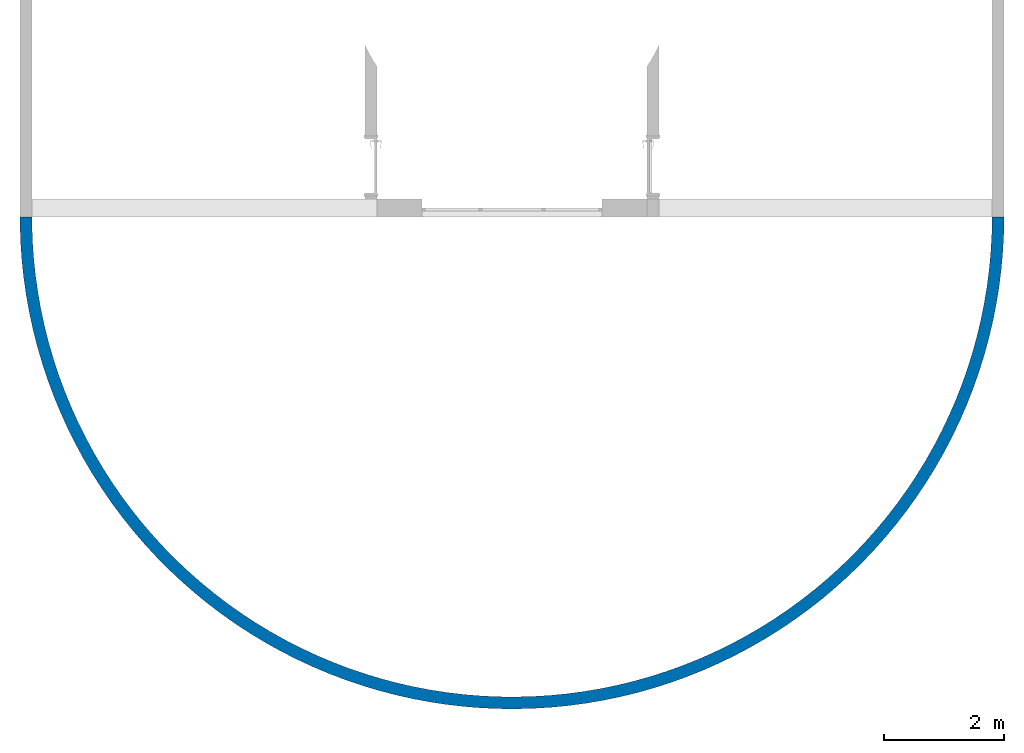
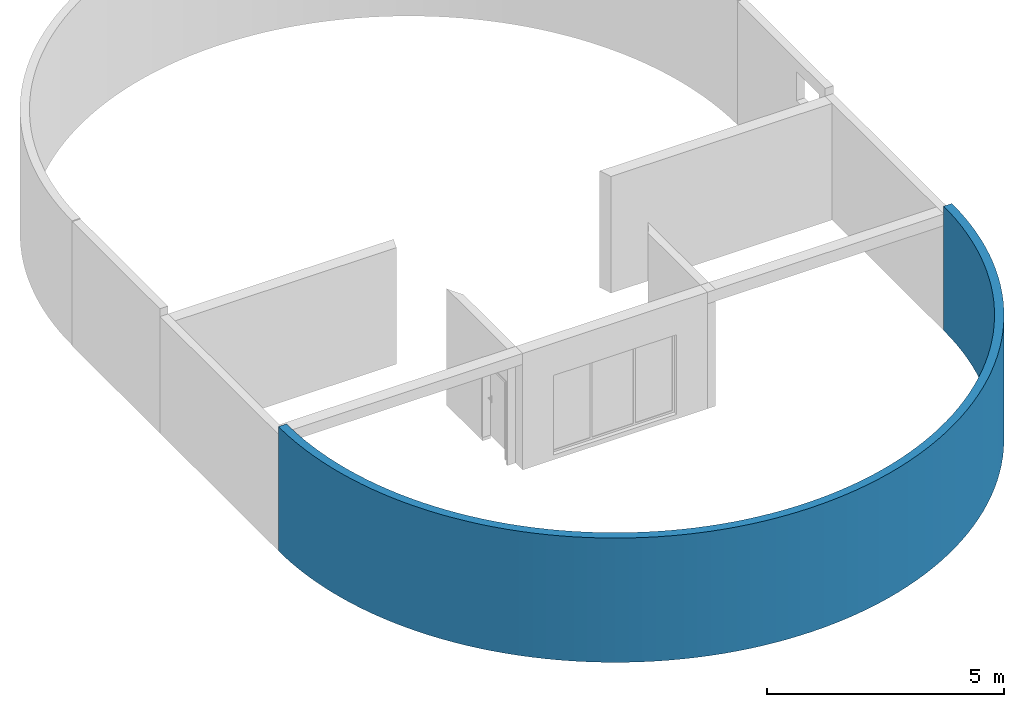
# One storey, part 3 of 5: 1 wall.
"""IFC4 building model written with IfcOpenShell, lengths in millimetres."""

from ifc_helpers import new_model, entity, si_unit, converted_unit, derived_unit, direction, frame, origin_with_axes, place, context, subcontext, project, spatial, polygons, material, constituent, constituent_set, type_object, element, save


model = new_model("IFC4")

# Units and contexts
model_context = context("Model", 3, precision=0.01, world=origin_with_axes(), true_north=direction((0.0, 1.0)))
body_context = subcontext(model_context, "Body", "Model", "MODEL_VIEW")
ifc_project = project(units=[si_unit("LENGTHUNIT", "METRE", prefix="MILLI"), si_unit("AREAUNIT", "SQUARE_METRE"), si_unit("VOLUMEUNIT", "CUBIC_METRE"), converted_unit("PLANEANGLEUNIT", "DEGREE", entity("IfcPlaneAngleMeasure", 0.0174532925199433), si_unit("PLANEANGLEUNIT", "RADIAN"), dimensions=[0, 0, 0, 0, 0, 0, 0]), converted_unit("TIMEUNIT", "Year", entity("IfcTimeMeasure", 31557600.0), si_unit("TIMEUNIT", "SECOND"), dimensions=[0, 0, 1, 0, 0, 0, 0]), si_unit("MASSUNIT", "GRAM", prefix="KILO"), si_unit("THERMODYNAMICTEMPERATUREUNIT", "DEGREE_CELSIUS"), si_unit("LUMINOUSINTENSITYUNIT", "LUMEN"), si_unit("ENERGYUNIT", "JOULE", prefix="MEGA"), derived_unit("THERMALCONDUCTANCEUNIT", [(si_unit("POWERUNIT", "WATT"), 1), (si_unit("LENGTHUNIT", "METRE"), -1), (si_unit("THERMODYNAMICTEMPERATUREUNIT", "KELVIN"), -1)]), derived_unit("SPECIFICHEATCAPACITYUNIT", [(si_unit("ENERGYUNIT", "JOULE"), 1), (si_unit("MASSUNIT", "GRAM", prefix="KILO"), -1), (si_unit("THERMODYNAMICTEMPERATUREUNIT", "KELVIN"), -1)]), derived_unit("MASSDENSITYUNIT", [(si_unit("MASSUNIT", "GRAM", prefix="KILO"), 1), (si_unit("VOLUMEUNIT", "CUBIC_METRE"), -1)])], contexts=[model_context])

# Site, building, storey
site_placement = place(None, origin_with_axes())
site = spatial("IfcSite", under=ifc_project, at=site_placement, Name="Exteriér", CompositionType="ELEMENT")
building_placement = place(site_placement, origin_with_axes())
building = spatial("IfcBuilding", under=site, at=building_placement, Name="Univerzitní lezecké centrum", CompositionType="ELEMENT")
storey_placement = place(building_placement, frame((0.0, 0.0, 3200.0), z_axis=(0.0, 0.0, 1.0), x_axis=(1.0, 0.0, 0.0)))
storey = spatial("IfcBuildingStorey", under=building, at=storey_placement, Name="2.NP", CompositionType="ELEMENT", Elevation=3200.0)

# Wall
ifc_material = material(Name="Beton vyztužený - vnější svislé kce")
ifc_constituent = constituent(ifc_material, Name="Beton vyztužený - vnější svislé kce")
ifc_constituent_set = constituent_set(constituents=[ifc_constituent], Name="!Vnější betonová stěna 200 mm")
wall_type = type_object("IfcWallType", Name="!Vnější betonová stěna 200 mm 200", PredefinedType="NOTDEFINED")
wall_placement = place(storey_placement, frame((-5550.148349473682, -300.1634079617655, -120.000000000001), z_axis=(0.0, 0.0, 1.0), x_axis=(2.042599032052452e-05, -0.9999999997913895, 0.0)))
element("IfcWall", 1, at=wall_placement, inside=storey, type_object=wall_type, material=ifc_constituent_set, Name="St01", PredefinedType="NOTDEFINED", context=body_context, shape_type="Tessellation", body=[
    polygons([(145.5579959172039, -200.0000000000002, 0.0), (145.5579959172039, -200.0000000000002, 3200.0), (0.0, -200.0000000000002, 3200.0), (0.0, -200.0000000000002, 0.0), (436.4905859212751, -189.6680701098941, 0.0), (436.4905859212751, -189.6680701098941, 3200.0), (142.0078008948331, 0.0, 3200.0), (0.0, 0.0, 3200.0), (0.0, 0.0, 0.0), (142.0078008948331, 0.0, 0.0), (726.8732015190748, -169.0172284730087, 0.0), (726.8732015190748, -169.0172284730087, 3200.0), (425.8444740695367, 10.07993160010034, 3200.0), (425.8444740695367, 10.07993160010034, 0.0), (1016.339963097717, -138.0734949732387, 0.0), (1016.339963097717, -138.0734949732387, 3200.0), (709.1445868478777, 30.22709417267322, 3200.0), (709.1445868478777, 30.22709417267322, 0.0), (1304.526145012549, -96.87585845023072, 0.0), (1304.526145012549, -96.87585845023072, 3200.0), (991.5511835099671, 60.41610246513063, 3200.0), (991.5511835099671, 60.41610246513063, 0.0), (1591.068635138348, -45.47622757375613, 0.0), (1591.068635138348, -45.47622757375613, 3200.0), (1272.708434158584, 100.6089185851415, 3200.0), (1272.708434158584, 100.6089185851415, 0.0), (1875.606392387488, 16.06063456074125, 0.0), (1875.606392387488, 16.06063456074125, 3200.0), (1552.262083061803, 150.7548999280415, 3200.0), (1552.262083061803, 150.7548999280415, 0.0), (2157.780901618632, 87.65719203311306, 0.0), (2157.780901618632, 87.65719203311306, 3200.0), (1829.859895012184, 210.7908629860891, 3200.0), (1829.859895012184, 210.7908629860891, 0.0), (2437.236625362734, 169.2232337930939, 0.0), (2437.236625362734, 169.2232337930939, 3200.0), (2105.152099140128, 280.6411629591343, 3200.0), (2105.152099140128, 280.6411629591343, 0.0), (2713.621451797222, 260.6559873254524, 0.0), (2713.621451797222, 260.6559873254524, 3200.0), (2377.79182962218, 360.2177890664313, 3200.0), (2377.79182962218, 360.2177890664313, 0.0), (2986.587138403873, 361.8402481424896, 0.0), (2986.587138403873, 361.8402481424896, 3200.0), (2647.435562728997, 449.4204754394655, 3200.0), (2647.435562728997, 449.4204754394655, 0.0), (3255.789750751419, 472.6485249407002, 0.0), (3255.789750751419, 472.6485249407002, 3200.0), (2913.743549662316, 548.1368274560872, 3200.0), (2913.743549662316, 548.1368274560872, 0.0), (3520.890095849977, 592.941200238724, 0.0), (3520.890095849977, 592.941200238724, 3200.0), (3176.380244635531, 656.2424633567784, 3200.0), (3176.380244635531, 656.2424633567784, 0.0), (3781.55414953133, 722.5667062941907, 0.0), (3781.55414953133, 722.5667062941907, 3200.0), (3435.014727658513, 773.6011709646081, 3200.0), (3435.014727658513, 773.6011709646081, 0.0), (4037.453477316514, 861.3617160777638, 0.0), (4037.453477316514, 861.3617160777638, 3200.0), (3689.321121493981, 900.0650793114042, 3200.0), (3689.321121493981, 900.0650793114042, 0.0), (4288.265648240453, 1009.151349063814, 0.0), (4288.265648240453, 1009.151349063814, 3200.0), (3938.979002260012, 1035.474844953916, 3200.0), (3938.979002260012, 1035.474844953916, 0.0), (4533.674641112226, 1165.749391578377, 0.0), (4533.674641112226, 1165.749391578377, 3200.0), (4183.673803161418, 1179.659852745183, 3200.0), (4183.673803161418, 1179.659852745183, 0.0), (4773.371242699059, 1330.958531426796, 0.0), (4773.371242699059, 1330.958531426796, 3200.0), (4423.097210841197, 1332.438430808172, 3200.0), (4423.097210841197, 1332.438430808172, 0.0), (5007.053437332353, 1504.570606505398, 0.0), (5007.053437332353, 1504.570606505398, 3200.0), (4656.94755385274, 1493.618079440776, 3200.0), (4656.94755385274, 1493.618079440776, 0.0), (5234.426787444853, 1686.366867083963, 0.0), (5234.426787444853, 1686.366867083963, 3200.0), (4884.930182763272, 1662.995713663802, 3200.0), (4884.930182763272, 1662.995713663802, 0.0), (5455.204804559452, 1876.118251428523, 0.0), (5455.204804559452, 1876.118251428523, 3200.0), (5106.757841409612, 1840.357919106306, 3200.0), (5106.757841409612, 1840.357919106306, 0.0), (5669.10931026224, 2073.585674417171, 0.0), (5669.10931026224, 2073.585674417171, 3200.0), (5322.151028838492, 2025.481220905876, 3200.0), (5322.151028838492, 2025.481220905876, 0.0), (5875.870786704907, 2278.520328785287, 0.0), (5875.870786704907, 2278.520328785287, 3200.0), (5530.838351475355, 2218.132365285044, 3200.0), (5530.838351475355, 2218.132365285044, 0.0), (6075.228716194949, 2490.663998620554, 0.0), (6075.228716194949, 2490.663998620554, 3200.0), (5732.55686507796, 2418.06861344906, 3200.0), (5732.55686507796, 2418.06861344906, 0.0), (6266.931909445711, 2709.749384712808, 0.0), (6266.931909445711, 2709.749384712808, 3200.0), (5927.052406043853, 2625.038047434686, 3200.0), (5927.052406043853, 2625.038047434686, 0.0), (6450.73882207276, 2935.50044134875, 0.0), (6450.73882207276, 2935.50044134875, 3200.0), (6114.079911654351, 2838.77988752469, 3200.0), (6114.079911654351, 2838.77988752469, 0.0), (6626.417858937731, 3167.632724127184, 0.0), (6626.417858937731, 3167.632724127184, 3200.0), (6293.403728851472, 3059.024820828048, 3200.0), (6293.403728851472, 3059.024820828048, 0.0), (6793.747665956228, 3405.853748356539, 0.0), (6793.747665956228, 3405.853748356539, 3200.0), (6464.797911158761, 3285.495340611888, 3200.0), (6464.797911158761, 3285.495340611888, 0.0), (6952.517409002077, 3649.863357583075, 0.0), (6952.517409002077, 3649.863357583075, 3200.0), (6628.04650337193, 3517.906095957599, 3200.0), (6628.04650337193, 3517.906095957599, 0.0), (7102.527039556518, 3899.354101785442, 0.0), (7102.527039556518, 3899.354101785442, 3200.0), (6782.943813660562, 3755.964251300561, 3200.0), (6782.943813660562, 3755.964251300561, 0.0), (7243.587546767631, 4154.01162475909, 0.0), (7243.587546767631, 4154.01162475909, 3200.0), (6929.294672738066, 3999.36985540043, 3200.0), (6929.294672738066, 3999.36985540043, 0.0), (7375.521195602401, 4413.51506020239, 0.0), (7375.521195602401, 4413.51506020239, 3200.0), (7066.9146797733, 4247.81621927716, 3200.0), (7066.9146797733, 4247.81621927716, 0.0), (7498.161750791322, 4677.537436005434, 0.0), (7498.161750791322, 4677.537436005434, 3200.0), (7195.630434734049, 4500.990302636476, 3200.0), (7195.630434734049, 4500.990302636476, 0.0), (7611.354686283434, 4945.7460862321, 0.0), (7611.354686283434, 4945.7460862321, 3200.0), (7315.279756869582, 4758.573108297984, 3200.0), (7315.279756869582, 4758.573108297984, 0.0), (7714.957379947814, 5217.80307027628, 0.0), (7714.957379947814, 5217.80307027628, 3200.0), (7425.711889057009, 5020.240084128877, 3200.0), (7425.711889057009, 5020.240084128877, 0.0), (7808.839293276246, 5493.365598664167, 0.0), (7808.839293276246, 5493.365598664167, 3200.0), (7526.787687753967, 5285.661531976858, 3200.0), (7526.787687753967, 5285.661531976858, 0.0), (7892.882135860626, 5772.086464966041, 0.0), (7892.882135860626, 5772.086464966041, 3200.0), (7618.379798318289, 5554.503023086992, 3200.0), (7618.379798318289, 5554.503023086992, 0.0), (7966.980014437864, 6053.614483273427, 0.0), (7966.980014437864, 6053.614483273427, 3200.0), (7700.372815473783, 5826.425819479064, 3200.0), (7700.372815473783, 5826.425819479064, 0.0), (8031.039566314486, 6337.594930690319, 0.0), (8031.039566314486, 6337.594930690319, 3200.0), (7772.663428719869, 6101.087300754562, 3200.0), (7772.663428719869, 6101.087300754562, 0.0), (8084.98007700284, 6623.669994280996, 0.0), (8084.98007700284, 6623.669994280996, 3200.0), (7835.160552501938, 6378.141395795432, 3200.0), (7835.160552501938, 6378.141395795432, 0.0), (8128.733581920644, 6911.479221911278, 0.0), (8128.733581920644, 6911.479221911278, 3200.0), (7887.78544097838, 6657.239018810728, 3200.0), (7887.78544097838, 6657.239018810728, 0.0), (8162.244952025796, 7200.659976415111, 0.0), (8162.244952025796, 7200.659976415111, 3200.0), (7930.471787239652, 6938.028509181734, 3200.0), (7930.471787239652, 6938.028509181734, 0.0), (8185.471963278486, 7490.847892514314, 0.0), (8185.471963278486, 7490.847892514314, 3200.0), (7963.165806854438, 7220.156074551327, 3200.0), (7963.165806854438, 7220.156074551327, 0.0), (8198.385349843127, 7781.677335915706, 0.0), (8198.385349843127, 7781.677335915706, 3200.0), (7985.826305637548, 7503.26623659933, 3200.0), (7985.826305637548, 7503.26623659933, 0.0), (8200.968840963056, 8072.781864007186, 0.0), (8200.968840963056, 8072.781864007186, 3200.0), (7998.424731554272, 7787.002278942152, 3200.0), (7998.424731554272, 7787.002278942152, 0.0), (8193.219181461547, 8363.794687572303, 0.0), (8193.219181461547, 8363.794687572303, 3200.0), (8000.945210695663, 8071.006696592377, 3200.0), (8000.945210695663, 8071.006696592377, 0.0), (8175.146135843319, 8654.34913294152, 0.0), (8175.146135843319, 8654.34913294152, 3200.0), (7993.384567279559, 8354.921646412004, 3200.0), (7993.384567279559, 8354.921646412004, 0.0), (8146.772475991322, 8944.079103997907, 0.0), (8146.772475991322, 8944.079103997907, 3200.0), (7975.752327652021, 8638.389397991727, 3200.0), (7975.752327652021, 8638.389397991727, 0.0), (8108.133952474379, 9232.61954345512, 0.0), (8108.133952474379, 9232.61954345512, 3200.0), (7948.070708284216, 8921.052784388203, 3200.0), (7948.070708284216, 8921.052784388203, 0.0), (8059.279249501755, 9519.60689282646, 0.0), (8059.279249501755, 9519.60689282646, 3200.0), (7910.374587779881, 9202.555652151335, 3200.0), (7910.374587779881, 9202.555652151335, 0.0), (8000.269923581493, 9804.679550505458, 0.0), (8000.269923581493, 9804.679550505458, 3200.0), (7862.711462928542, 9482.543310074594, 3200.0), (7862.711462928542, 9482.543310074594, 0.0), (7931.18032595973, 10087.47832738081, 0.0), (7931.18032595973, 10087.47832738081, 3200.0), (7805.141388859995, 9760.662976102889, 3200.0), (7805.141388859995, 9760.662976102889, 0.0), (7852.097508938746, 10367.64689941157, 0.0), (7852.097508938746, 10367.64689941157, 3200.0), (7737.736903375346, 10036.56422183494, 3200.0), (7737.736903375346, 10036.56422183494, 0.0), (7763.121116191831, 10644.83225659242, 0.0), (7763.121116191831, 10644.83225659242, 3200.0), (7660.582935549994, 10309.89941406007, 3200.0), (7660.582935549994, 10309.89941406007, 0.0), (7664.363257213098, 10918.68514774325, 0.0), (7664.363257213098, 10918.68514774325, 3200.0), (7573.776698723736, 10580.3241527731, 3200.0), (7573.776698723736, 10580.3241527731, 0.0), (7555.948366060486, 11188.86052056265, 0.0), (7555.948366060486, 11188.86052056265, 3200.0), (7477.427568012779, 10847.49770511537, 3200.0), (7477.427568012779, 10847.49770511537, 0.0), (7438.013044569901, 11455.01795639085, 0.0), (7438.013044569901, 11455.01795639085, 3200.0), (7371.656942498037, 11111.08343469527, 3200.0), (7371.656942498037, 11111.08343469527, 0.0), (7310.705890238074, 11716.82209913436, 0.0), (7310.705890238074, 11716.82209913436, 3200.0), (7256.598092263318, 11370.74922574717, 3200.0), (7256.598092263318, 11370.74922574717, 0.0), (7174.187308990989, 11973.94307781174, 0.0), (7174.187308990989, 11973.94307781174, 3200.0), (7132.39599047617, 11626.1679015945, 3200.0), (7132.39599047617, 11626.1679015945, 0.0), (7028.629313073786, 12226.05692218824, 0.0), (7028.629313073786, 12226.05692218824, 3200.0), (6999.207130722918, 11877.0176368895, 3200.0), (6999.207130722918, 11877.0176368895, 0.0), (6874.215304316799, 12472.84597097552, 0.0), (6874.215304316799, 12472.84597097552, 3200.0), (6857.199329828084, 12122.98236311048, 3200.0), (6857.199329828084, 12122.98236311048, 0.0), (6711.139843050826, 12713.99927208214, 0.0), (6711.139843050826, 12713.99927208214, 3200.0), (6706.551516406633, 12363.75216680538, 3200.0), (6706.551516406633, 12363.75216680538, 0.0), (6539.608402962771, 12949.21297441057, 0.0), (6539.608402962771, 12949.21297441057, 3200.0), (6547.45350541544, 12599.02368008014, 3200.0), (6547.45350541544, 12599.02368008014, 0.0), (6359.83711220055, 13178.19071070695, 0.0), (6359.83711220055, 13178.19071070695, 3200.0), (6380.105758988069, 12828.50046283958, 3200.0), (6380.105758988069, 12828.50046283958, 0.0), (6172.05248105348, 13400.64397098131, 0.0), (6172.05248105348, 13400.64397098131, 3200.0), (6204.719133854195, 13051.89337629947, 3200.0), (6204.719133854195, 13051.89337629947, 0.0), (5976.491116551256, 13616.29246602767, 0.0), (5976.491116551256, 13616.29246602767, 3200.0), (6021.514615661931, 13268.92094729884, 3200.0), (6021.514615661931, 13268.92094729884, 0.0), (5773.399424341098, 13824.86448058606, 0.0), (5773.399424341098, 13824.86448058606, 3200.0), (5830.72304053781, 13479.30972295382, 3200.0), (5830.72304053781, 13479.30972295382, 0.0), (5563.03329821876, 14026.09721570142, 0.0), (5563.03329821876, 14026.09721570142, 3200.0), (5632.584804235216, 13682.79461520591, 3200.0), (5632.584804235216, 13682.79461520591, 0.0), (5345.657797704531, 14219.73711984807, 0.0), (5345.657797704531, 14219.73711984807, 3200.0), (5427.349559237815, 13879.11923483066, 3200.0), (5427.349559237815, 13879.11923483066, 0.0), (5121.546814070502, 14405.54020840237, 0.0), (5121.546814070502, 14405.54020840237, 3200.0), (5215.275900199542, 14068.03621448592, 3200.0), (5215.275900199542, 14068.03621448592, 0.0), (4890.982725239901, 14583.27237106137, 0.0), (4890.982725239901, 14583.27237106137, 3200.0), (4996.631038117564, 14249.30752039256, 3200.0), (4996.631038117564, 14249.30752039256, 0.0), (4654.256039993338, 14752.70966681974, 0.0), (4654.256039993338, 14752.70966681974, 3200.0), (4771.690463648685, 14422.704752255, 3200.0), (4771.690463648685, 14422.704752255, 0.0), (4411.665031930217, 14913.63860613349, 0.0), (4411.665031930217, 14913.63860613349, 3200.0), (4540.737599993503, 14588.00943104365, 3200.0), (4540.737599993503, 14588.00943104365, 0.0), (4163.51536364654, 15065.85641991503, 0.0), (4163.51536364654, 15065.85641991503, 3200.0), (4304.063445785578, 14745.01327427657, 3200.0), (4304.063445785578, 14745.01327427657, 0.0), (3910.119701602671, 15209.17131502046, 0.0), (3910.119701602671, 15209.17131502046, 3200.0), (4061.966208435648, 14893.51845845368, 3200.0), (4061.966208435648, 14893.51845845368, 0.0), (3651.79732216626, 15343.40271590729, 0.0), (3651.79732216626, 15343.40271590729, 3200.0), (3814.750928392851, 15033.33786831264, 3200.0), (3814.750928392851, 15033.33786831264, 0.0), (3388.873709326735, 15468.38149215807, 0.0), (3388.873709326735, 15468.38149215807, 3200.0), (3562.729094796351, 15164.29533259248, 3200.0), (3562.729094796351, 15164.29533259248, 0.0), (3121.680144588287, 15583.9501715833, 0.0), (3121.680144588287, 15583.9501715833, 3200.0), (3306.218253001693, 15286.22584600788, 3200.0), (3306.218253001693, 15286.22584600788, 0.0), (2850.553289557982, 15689.96313863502, 0.0), (2850.553289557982, 15689.96313863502, 3200.0), (3045.541604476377, 15398.97577715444, 3200.0), (3045.541604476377, 15398.97577715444, 0.0), (2575.834761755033, 15786.28681788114, 0.0), (2575.834761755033, 15786.28681788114, 3200.0), (2781.027599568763, 15502.40306208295, 3200.0), (2781.027599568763, 15502.40306208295, 0.0), (2297.870704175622, 15872.79984230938, 0.0), (2297.870704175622, 15872.79984230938, 3200.0), (2513.009523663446, 15596.37738329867, 3200.0), (2513.009523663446, 15596.37738329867, 0.0), (2017.011349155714, 15949.39320624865, 0.0), (2017.011349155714, 15949.39320624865, 3200.0), (2241.825077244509, 15680.78033396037, 3200.0), (2241.825077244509, 15680.78033396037, 0.0), (1733.610577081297, 16015.97040271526, 0.0), (1733.610577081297, 16015.97040271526, 3200.0), (1967.815950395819, 15755.50556707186, 3200.0), (1967.815950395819, 15755.50556707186, 0.0), (1448.025470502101, 16072.44754501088, 0.0), (1448.025470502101, 16072.44754501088, 3200.0), (1691.327392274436, 15820.4589294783, 3200.0), (1691.327392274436, 15820.4589294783, 0.0), (1160.615864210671, 16118.75347241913, 0.0), (1160.615864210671, 16118.75347241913, 3200.0), (1412.707776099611, 15875.55858049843, 3200.0), (1412.707776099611, 15875.55858049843, 0.0), (871.743891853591, 16154.82983986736, 0.0), (871.743891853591, 16154.82983986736, 3200.0), (1132.308160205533, 15920.73509504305, 3200.0), (1132.308160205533, 15920.73509504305, 0.0), (581.7735296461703, 16180.63119144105, 0.0), (581.7735296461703, 16180.63119144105, 3200.0), (850.4818457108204, 15955.93155109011, 3200.0), (850.4818457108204, 15955.93155109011, 0.0), (291.0701377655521, 16196.12501765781, 0.0), (291.0701377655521, 16196.12501765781, 3200.0), (567.5839313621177, 15981.1036014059, 3200.0), (567.5839313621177, 15981.1036014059, 0.0), (0.1674930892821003, 16199.99999828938, 0.0), (0.1674930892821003, 16199.99999828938, 3200.0), (283.9708661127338, 15996.21952942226, 3200.0), (283.9708661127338, 15996.21952942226, 0.0), (0.1634078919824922, 15999.9999983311, 0.0), (0.1634078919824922, 15999.9999983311, 3200.0)], [[[1, 2, 3, 4]], [[5, 6, 2, 1]], [[2, 7, 8, 3]], [[4, 3, 8, 9]], [[10, 1, 4, 9]], [[11, 12, 6, 5]], [[6, 13, 7, 2]], [[14, 5, 1, 10]], [[7, 10, 9, 8]], [[15, 16, 12, 11]], [[12, 17, 13, 6]], [[18, 11, 5, 14]], [[13, 14, 10, 7]], [[19, 20, 16, 15]], [[16, 21, 17, 12]], [[22, 15, 11, 18]], [[17, 18, 14, 13]], [[23, 24, 20, 19]], [[20, 25, 21, 16]], [[26, 19, 15, 22]], [[21, 22, 18, 17]], [[27, 28, 24, 23]], [[24, 29, 25, 20]], [[30, 23, 19, 26]], [[25, 26, 22, 21]], [[31, 32, 28, 27]], [[28, 33, 29, 24]], [[34, 27, 23, 30]], [[29, 30, 26, 25]], [[35, 36, 32, 31]], [[32, 37, 33, 28]], [[38, 31, 27, 34]], [[33, 34, 30, 29]], [[39, 40, 36, 35]], [[36, 41, 37, 32]], [[42, 35, 31, 38]], [[37, 38, 34, 33]], [[43, 44, 40, 39]], [[40, 45, 41, 36]], [[46, 39, 35, 42]], [[41, 42, 38, 37]], [[47, 48, 44, 43]], [[44, 49, 45, 40]], [[50, 43, 39, 46]], [[45, 46, 42, 41]], [[51, 52, 48, 47]], [[48, 53, 49, 44]], [[54, 47, 43, 50]], [[49, 50, 46, 45]], [[55, 56, 52, 51]], [[52, 57, 53, 48]], [[58, 51, 47, 54]], [[53, 54, 50, 49]], [[59, 60, 56, 55]], [[56, 61, 57, 52]], [[62, 55, 51, 58]], [[57, 58, 54, 53]], [[63, 64, 60, 59]], [[60, 65, 61, 56]], [[66, 59, 55, 62]], [[61, 62, 58, 57]], [[67, 68, 64, 63]], [[64, 69, 65, 60]], [[70, 63, 59, 66]], [[65, 66, 62, 61]], [[71, 72, 68, 67]], [[68, 73, 69, 64]], [[74, 67, 63, 70]], [[69, 70, 66, 65]], [[75, 76, 72, 71]], [[72, 77, 73, 68]], [[78, 71, 67, 74]], [[73, 74, 70, 69]], [[79, 80, 76, 75]], [[76, 81, 77, 72]], [[82, 75, 71, 78]], [[77, 78, 74, 73]], [[83, 84, 80, 79]], [[80, 85, 81, 76]], [[86, 79, 75, 82]], [[81, 82, 78, 77]], [[87, 88, 84, 83]], [[84, 89, 85, 80]], [[90, 83, 79, 86]], [[85, 86, 82, 81]], [[91, 92, 88, 87]], [[88, 93, 89, 84]], [[94, 87, 83, 90]], [[89, 90, 86, 85]], [[95, 96, 92, 91]], [[92, 97, 93, 88]], [[98, 91, 87, 94]], [[93, 94, 90, 89]], [[99, 100, 96, 95]], [[96, 101, 97, 92]], [[102, 95, 91, 98]], [[97, 98, 94, 93]], [[103, 104, 100, 99]], [[100, 105, 101, 96]], [[106, 99, 95, 102]], [[101, 102, 98, 97]], [[107, 108, 104, 103]], [[104, 109, 105, 100]], [[110, 103, 99, 106]], [[105, 106, 102, 101]], [[111, 112, 108, 107]], [[108, 113, 109, 104]], [[114, 107, 103, 110]], [[109, 110, 106, 105]], [[115, 116, 112, 111]], [[112, 117, 113, 108]], [[118, 111, 107, 114]], [[113, 114, 110, 109]], [[119, 120, 116, 115]], [[116, 121, 117, 112]], [[122, 115, 111, 118]], [[117, 118, 114, 113]], [[123, 124, 120, 119]], [[120, 125, 121, 116]], [[126, 119, 115, 122]], [[121, 122, 118, 117]], [[127, 128, 124, 123]], [[124, 129, 125, 120]], [[130, 123, 119, 126]], [[125, 126, 122, 121]], [[131, 132, 128, 127]], [[128, 133, 129, 124]], [[134, 127, 123, 130]], [[129, 130, 126, 125]], [[135, 136, 132, 131]], [[132, 137, 133, 128]], [[138, 131, 127, 134]], [[133, 134, 130, 129]], [[139, 140, 136, 135]], [[136, 141, 137, 132]], [[142, 135, 131, 138]], [[137, 138, 134, 133]], [[143, 144, 140, 139]], [[140, 145, 141, 136]], [[146, 139, 135, 142]], [[141, 142, 138, 137]], [[147, 148, 144, 143]], [[144, 149, 145, 140]], [[150, 143, 139, 146]], [[145, 146, 142, 141]], [[151, 152, 148, 147]], [[148, 153, 149, 144]], [[154, 147, 143, 150]], [[149, 150, 146, 145]], [[155, 156, 152, 151]], [[152, 157, 153, 148]], [[158, 151, 147, 154]], [[153, 154, 150, 149]], [[159, 160, 156, 155]], [[156, 161, 157, 152]], [[162, 155, 151, 158]], [[157, 158, 154, 153]], [[163, 164, 160, 159]], [[160, 165, 161, 156]], [[166, 159, 155, 162]], [[161, 162, 158, 157]], [[167, 168, 164, 163]], [[164, 169, 165, 160]], [[170, 163, 159, 166]], [[165, 166, 162, 161]], [[171, 172, 168, 167]], [[168, 173, 169, 164]], [[174, 167, 163, 170]], [[169, 170, 166, 165]], [[175, 176, 172, 171]], [[172, 177, 173, 168]], [[178, 171, 167, 174]], [[173, 174, 170, 169]], [[179, 180, 176, 175]], [[176, 181, 177, 172]], [[182, 175, 171, 178]], [[177, 178, 174, 173]], [[183, 184, 180, 179]], [[180, 185, 181, 176]], [[186, 179, 175, 182]], [[181, 182, 178, 177]], [[187, 188, 184, 183]], [[184, 189, 185, 180]], [[190, 183, 179, 186]], [[185, 186, 182, 181]], [[191, 192, 188, 187]], [[188, 193, 189, 184]], [[194, 187, 183, 190]], [[189, 190, 186, 185]], [[195, 196, 192, 191]], [[192, 197, 193, 188]], [[198, 191, 187, 194]], [[193, 194, 190, 189]], [[199, 200, 196, 195]], [[196, 201, 197, 192]], [[202, 195, 191, 198]], [[197, 198, 194, 193]], [[203, 204, 200, 199]], [[200, 205, 201, 196]], [[206, 199, 195, 202]], [[201, 202, 198, 197]], [[207, 208, 204, 203]], [[204, 209, 205, 200]], [[210, 203, 199, 206]], [[205, 206, 202, 201]], [[211, 212, 208, 207]], [[208, 213, 209, 204]], [[214, 207, 203, 210]], [[209, 210, 206, 205]], [[215, 216, 212, 211]], [[212, 217, 213, 208]], [[218, 211, 207, 214]], [[213, 214, 210, 209]], [[219, 220, 216, 215]], [[216, 221, 217, 212]], [[222, 215, 211, 218]], [[217, 218, 214, 213]], [[223, 224, 220, 219]], [[220, 225, 221, 216]], [[226, 219, 215, 222]], [[221, 222, 218, 217]], [[227, 228, 224, 223]], [[224, 229, 225, 220]], [[230, 223, 219, 226]], [[225, 226, 222, 221]], [[231, 232, 228, 227]], [[228, 233, 229, 224]], [[234, 227, 223, 230]], [[229, 230, 226, 225]], [[235, 236, 232, 231]], [[232, 237, 233, 228]], [[238, 231, 227, 234]], [[233, 234, 230, 229]], [[239, 240, 236, 235]], [[236, 241, 237, 232]], [[242, 235, 231, 238]], [[237, 238, 234, 233]], [[243, 244, 240, 239]], [[240, 245, 241, 236]], [[246, 239, 235, 242]], [[241, 242, 238, 237]], [[247, 248, 244, 243]], [[244, 249, 245, 240]], [[250, 243, 239, 246]], [[245, 246, 242, 241]], [[251, 252, 248, 247]], [[248, 253, 249, 244]], [[254, 247, 243, 250]], [[249, 250, 246, 245]], [[255, 256, 252, 251]], [[252, 257, 253, 248]], [[258, 251, 247, 254]], [[253, 254, 250, 249]], [[259, 260, 256, 255]], [[256, 261, 257, 252]], [[262, 255, 251, 258]], [[257, 258, 254, 253]], [[263, 264, 260, 259]], [[260, 265, 261, 256]], [[266, 259, 255, 262]], [[261, 262, 258, 257]], [[267, 268, 264, 263]], [[264, 269, 265, 260]], [[270, 263, 259, 266]], [[265, 266, 262, 261]], [[271, 272, 268, 267]], [[268, 273, 269, 264]], [[274, 267, 263, 270]], [[269, 270, 266, 265]], [[275, 276, 272, 271]], [[272, 277, 273, 268]], [[278, 271, 267, 274]], [[273, 274, 270, 269]], [[279, 280, 276, 275]], [[276, 281, 277, 272]], [[282, 275, 271, 278]], [[277, 278, 274, 273]], [[283, 284, 280, 279]], [[280, 285, 281, 276]], [[286, 279, 275, 282]], [[281, 282, 278, 277]], [[287, 288, 284, 283]], [[284, 289, 285, 280]], [[290, 283, 279, 286]], [[285, 286, 282, 281]], [[291, 292, 288, 287]], [[288, 293, 289, 284]], [[294, 287, 283, 290]], [[289, 290, 286, 285]], [[295, 296, 292, 291]], [[292, 297, 293, 288]], [[298, 291, 287, 294]], [[293, 294, 290, 289]], [[299, 300, 296, 295]], [[296, 301, 297, 292]], [[302, 295, 291, 298]], [[297, 298, 294, 293]], [[303, 304, 300, 299]], [[300, 305, 301, 296]], [[306, 299, 295, 302]], [[301, 302, 298, 297]], [[307, 308, 304, 303]], [[304, 309, 305, 300]], [[310, 303, 299, 306]], [[305, 306, 302, 301]], [[311, 312, 308, 307]], [[308, 313, 309, 304]], [[314, 307, 303, 310]], [[309, 310, 306, 305]], [[315, 316, 312, 311]], [[312, 317, 313, 308]], [[318, 311, 307, 314]], [[313, 314, 310, 309]], [[319, 320, 316, 315]], [[316, 321, 317, 312]], [[322, 315, 311, 318]], [[317, 318, 314, 313]], [[323, 324, 320, 319]], [[320, 325, 321, 316]], [[326, 319, 315, 322]], [[321, 322, 318, 317]], [[327, 328, 324, 323]], [[324, 329, 325, 320]], [[330, 323, 319, 326]], [[325, 326, 322, 321]], [[331, 332, 328, 327]], [[328, 333, 329, 324]], [[334, 327, 323, 330]], [[329, 330, 326, 325]], [[335, 336, 332, 331]], [[332, 337, 333, 328]], [[338, 331, 327, 334]], [[333, 334, 330, 329]], [[339, 340, 336, 335]], [[336, 341, 337, 332]], [[342, 335, 331, 338]], [[337, 338, 334, 333]], [[343, 344, 340, 339]], [[340, 345, 341, 336]], [[346, 339, 335, 342]], [[341, 342, 338, 337]], [[347, 348, 344, 343]], [[344, 349, 345, 340]], [[350, 343, 339, 346]], [[345, 346, 342, 341]], [[351, 352, 348, 347]], [[348, 353, 349, 344]], [[354, 347, 343, 350]], [[349, 350, 346, 345]], [[355, 356, 352, 351]], [[352, 357, 353, 348]], [[358, 351, 347, 354]], [[353, 354, 350, 349]], [[355, 359, 360, 356]], [[356, 360, 357, 352]], [[359, 355, 351, 358]], [[357, 358, 354, 353]], [[360, 359, 358, 357]]], closed=True),
])

save(model, "model.ifc")
